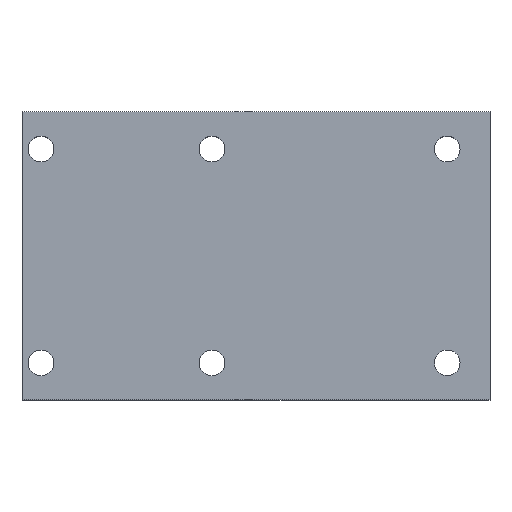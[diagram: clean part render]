
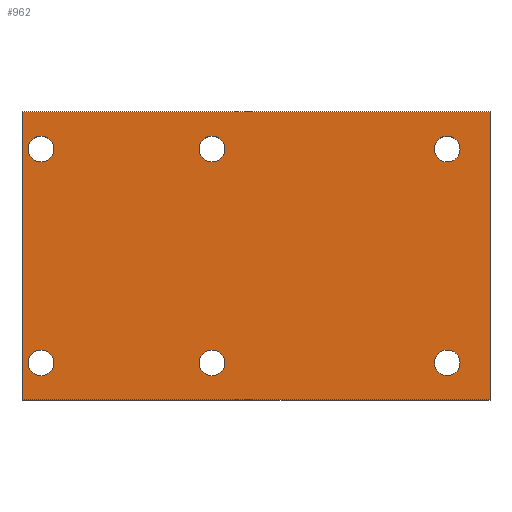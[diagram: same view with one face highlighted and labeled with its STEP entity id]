
A CAD part, top view. The second image highlights one B-rep face of the part: STEP entity #962.
In plain terms, the highlighted planar face has unit normal (0, 0, 1).
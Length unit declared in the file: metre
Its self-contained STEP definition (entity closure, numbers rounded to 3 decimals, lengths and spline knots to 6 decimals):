
#69=CIRCLE('',#1043,0.003);
#70=CIRCLE('',#1044,0.003);
#71=CIRCLE('',#1045,0.003);
#72=CIRCLE('',#1046,0.003);
#73=CIRCLE('',#1047,0.003);
#74=CIRCLE('',#1048,0.003);
#168=ORIENTED_EDGE('',*,*,#451,.F.);
#169=ORIENTED_EDGE('',*,*,#452,.F.);
#170=ORIENTED_EDGE('',*,*,#453,.F.);
#171=ORIENTED_EDGE('',*,*,#454,.F.);
#172=ORIENTED_EDGE('',*,*,#455,.F.);
#173=ORIENTED_EDGE('',*,*,#456,.F.);
#174=ORIENTED_EDGE('',*,*,#431,.F.);
#175=ORIENTED_EDGE('',*,*,#457,.T.);
#176=ORIENTED_EDGE('',*,*,#458,.F.);
#177=ORIENTED_EDGE('',*,*,#459,.F.);
#431=EDGE_CURVE('',#572,#574,#669,.T.);
#451=EDGE_CURVE('',#592,#592,#69,.T.);
#452=EDGE_CURVE('',#593,#593,#70,.T.);
#453=EDGE_CURVE('',#594,#594,#71,.T.);
#454=EDGE_CURVE('',#595,#595,#72,.T.);
#455=EDGE_CURVE('',#596,#596,#73,.T.);
#456=EDGE_CURVE('',#597,#597,#74,.T.);
#457=EDGE_CURVE('',#572,#598,#683,.T.);
#458=EDGE_CURVE('',#599,#598,#684,.T.);
#459=EDGE_CURVE('',#574,#599,#685,.T.);
#572=VERTEX_POINT('',#1508);
#574=VERTEX_POINT('',#1511);
#592=VERTEX_POINT('',#1552);
#593=VERTEX_POINT('',#1554);
#594=VERTEX_POINT('',#1556);
#595=VERTEX_POINT('',#1558);
#596=VERTEX_POINT('',#1560);
#597=VERTEX_POINT('',#1562);
#598=VERTEX_POINT('',#1564);
#599=VERTEX_POINT('',#1566);
#669=LINE('',#1510,#719);
#683=LINE('',#1563,#733);
#684=LINE('',#1565,#734);
#685=LINE('',#1567,#735);
#719=VECTOR('',#1178,1.);
#733=VECTOR('',#1222,1.);
#734=VECTOR('',#1223,1.);
#735=VECTOR('',#1224,1.);
#773=EDGE_LOOP('',(#168));
#774=EDGE_LOOP('',(#169));
#775=EDGE_LOOP('',(#170));
#776=EDGE_LOOP('',(#171));
#777=EDGE_LOOP('',(#172));
#778=EDGE_LOOP('',(#173));
#779=EDGE_LOOP('',(#174,#175,#176,#177));
#859=FACE_BOUND('',#773,.T.);
#860=FACE_BOUND('',#774,.T.);
#861=FACE_BOUND('',#775,.T.);
#862=FACE_BOUND('',#776,.T.);
#863=FACE_BOUND('',#777,.T.);
#864=FACE_BOUND('',#778,.T.);
#865=FACE_BOUND('',#779,.T.);
#943=PLANE('',#1042);
#962=ADVANCED_FACE('',(#859,#860,#861,#862,#863,#864,#865),#943,.F.);
#1042=AXIS2_PLACEMENT_3D('',#1550,#1208,#1209);
#1043=AXIS2_PLACEMENT_3D('',#1551,#1210,#1211);
#1044=AXIS2_PLACEMENT_3D('',#1553,#1212,#1213);
#1045=AXIS2_PLACEMENT_3D('',#1555,#1214,#1215);
#1046=AXIS2_PLACEMENT_3D('',#1557,#1216,#1217);
#1047=AXIS2_PLACEMENT_3D('',#1559,#1218,#1219);
#1048=AXIS2_PLACEMENT_3D('',#1561,#1220,#1221);
#1178=DIRECTION('',(1.,0.,0.));
#1208=DIRECTION('',(0.,0.,-1.));
#1209=DIRECTION('',(-1.,0.,0.));
#1210=DIRECTION('',(0.,0.,1.));
#1211=DIRECTION('',(-1.,0.,0.));
#1212=DIRECTION('',(0.,0.,1.));
#1213=DIRECTION('',(-1.,0.,0.));
#1214=DIRECTION('',(0.,0.,1.));
#1215=DIRECTION('',(-1.,0.,0.));
#1216=DIRECTION('',(0.,0.,1.));
#1217=DIRECTION('',(-1.,0.,0.));
#1218=DIRECTION('',(0.,0.,1.));
#1219=DIRECTION('',(-1.,0.,0.));
#1220=DIRECTION('',(0.,0.,1.));
#1221=DIRECTION('',(-1.,0.,0.));
#1222=DIRECTION('',(0.,-1.,0.));
#1223=DIRECTION('',(-1.,0.,0.));
#1224=DIRECTION('',(0.,-1.,0.));
#1508=CARTESIAN_POINT('',(-0.064433,0.033676,0.05));
#1510=CARTESIAN_POINT('',(0.045,0.033676,0.05));
#1511=CARTESIAN_POINT('',(0.045,0.033676,0.05));
#1550=CARTESIAN_POINT('',(-0.014216,0.,0.05));
#1551=CARTESIAN_POINT('',(-0.06,-0.025,0.05));
#1552=CARTESIAN_POINT('',(-0.063,-0.025,0.05));
#1553=CARTESIAN_POINT('',(0.035,-0.025,0.05));
#1554=CARTESIAN_POINT('',(0.032,-0.025,0.05));
#1555=CARTESIAN_POINT('',(-0.02,-0.025,0.05));
#1556=CARTESIAN_POINT('',(-0.023,-0.025,0.05));
#1557=CARTESIAN_POINT('',(-0.06,0.025,0.05));
#1558=CARTESIAN_POINT('',(-0.063,0.025,0.05));
#1559=CARTESIAN_POINT('',(0.035,0.025,0.05));
#1560=CARTESIAN_POINT('',(0.032,0.025,0.05));
#1561=CARTESIAN_POINT('',(-0.02,0.025,0.05));
#1562=CARTESIAN_POINT('',(-0.023,0.025,0.05));
#1563=CARTESIAN_POINT('',(-0.064433,0.119517,0.05));
#1564=CARTESIAN_POINT('',(-0.064433,-0.033676,0.05));
#1565=CARTESIAN_POINT('',(-0.073433,-0.033676,0.05));
#1566=CARTESIAN_POINT('',(0.045,-0.033676,0.05));
#1567=CARTESIAN_POINT('',(0.045,-0.033676,0.05));
